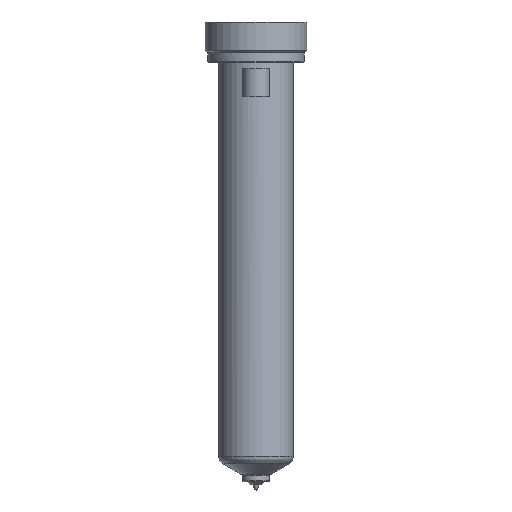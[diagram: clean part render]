
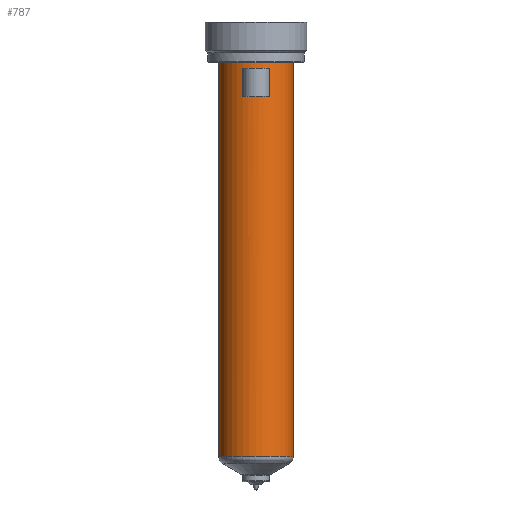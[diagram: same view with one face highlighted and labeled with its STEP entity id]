
A CAD part, top view. The second image highlights one B-rep face of the part: STEP entity #787.
In plain terms, the highlighted cylindrical face has radius 14 mm (diameter 28 mm), a partial arc.
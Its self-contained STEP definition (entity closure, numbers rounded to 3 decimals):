
#195=DIRECTION('',(0.,-1.,0.));
#196=VECTOR('',#195,147.483);
#197=CARTESIAN_POINT('',(14.,0.,0.));
#198=LINE('',#197,#196);
#199=CARTESIAN_POINT('',(0.,-147.483,0.));
#200=DIRECTION('',(0.,1.,0.));
#201=DIRECTION('',(-1.,0.,0.));
#202=AXIS2_PLACEMENT_3D('',#199,#200,#201);
#204=DIRECTION('',(0.,1.,0.));
#205=VECTOR('',#204,147.483);
#206=CARTESIAN_POINT('',(-14.,-147.483,0.));
#207=LINE('',#206,#205);
#208=CARTESIAN_POINT('',(0.,0.,0.));
#209=DIRECTION('',(0.,1.,0.));
#210=DIRECTION('',(-1.,0.,0.));
#211=AXIS2_PLACEMENT_3D('',#208,#209,#210);
#357=DIRECTION('',(0.,-1.,0.));
#358=VECTOR('',#357,10.5);
#359=CARTESIAN_POINT('',(-5.,-2.5,13.077));
#360=LINE('',#359,#358);
#365=CARTESIAN_POINT('',(0.,-13.,0.));
#366=DIRECTION('',(0.,1.,0.));
#367=DIRECTION('',(-0.357,0.,0.934));
#368=AXIS2_PLACEMENT_3D('',#365,#366,#367);
#400=CARTESIAN_POINT('',(0.,-2.5,0.));
#401=DIRECTION('',(0.,-1.,0.));
#402=DIRECTION('',(0.357,0.,0.934));
#403=AXIS2_PLACEMENT_3D('',#400,#401,#402);
#405=DIRECTION('',(0.,-1.,0.));
#406=VECTOR('',#405,10.5);
#407=CARTESIAN_POINT('',(5.,-2.5,13.077));
#408=LINE('',#407,#406);
#466=CARTESIAN_POINT('',(-14.,0.,0.));
#467=CARTESIAN_POINT('',(14.,0.,0.));
#468=VERTEX_POINT('',#466);
#469=VERTEX_POINT('',#467);
#478=CARTESIAN_POINT('',(5.,-2.5,13.077));
#479=VERTEX_POINT('',#478);
#480=CARTESIAN_POINT('',(-5.,-2.5,13.077));
#481=VERTEX_POINT('',#480);
#518=CARTESIAN_POINT('',(14.,-147.483,0.));
#519=VERTEX_POINT('',#518);
#528=CARTESIAN_POINT('',(-14.,-147.483,0.));
#529=VERTEX_POINT('',#528);
#546=CARTESIAN_POINT('',(-5.,-13.,13.077));
#547=CARTESIAN_POINT('',(5.,-13.,13.077));
#548=VERTEX_POINT('',#546);
#549=VERTEX_POINT('',#547);
#765=CARTESIAN_POINT('',(0.,16.4,0.));
#766=DIRECTION('',(0.,-1.,0.));
#767=DIRECTION('',(-1.,0.,0.));
#768=AXIS2_PLACEMENT_3D('',#765,#766,#767);
#769=CYLINDRICAL_SURFACE('',#768,14.);
#770=ORIENTED_EDGE('',*,*,#759,.T.);
#772=ORIENTED_EDGE('',*,*,#771,.F.);
#773=ORIENTED_EDGE('',*,*,#755,.T.);
#774=ORIENTED_EDGE('',*,*,#745,.T.);
#775=EDGE_LOOP('',(#770,#772,#773,#774));
#776=FACE_OUTER_BOUND('',#775,.F.);
#778=ORIENTED_EDGE('',*,*,#777,.T.);
#780=ORIENTED_EDGE('',*,*,#779,.T.);
#782=ORIENTED_EDGE('',*,*,#781,.F.);
#784=ORIENTED_EDGE('',*,*,#783,.T.);
#785=EDGE_LOOP('',(#778,#780,#782,#784));
#786=FACE_BOUND('',#785,.F.);
#787=ADVANCED_FACE('',(#776,#786),#769,.T.);
#203=CIRCLE('',#202,14.);
#212=CIRCLE('',#211,14.);
#369=CIRCLE('',#368,14.);
#404=CIRCLE('',#403,14.);
#745=EDGE_CURVE('',#468,#469,#212,.T.);
#755=EDGE_CURVE('',#529,#468,#207,.T.);
#759=EDGE_CURVE('',#469,#519,#198,.T.);
#771=EDGE_CURVE('',#529,#519,#203,.T.);
#777=EDGE_CURVE('',#481,#548,#360,.T.);
#779=EDGE_CURVE('',#548,#549,#369,.T.);
#781=EDGE_CURVE('',#479,#549,#408,.T.);
#783=EDGE_CURVE('',#479,#481,#404,.T.);
